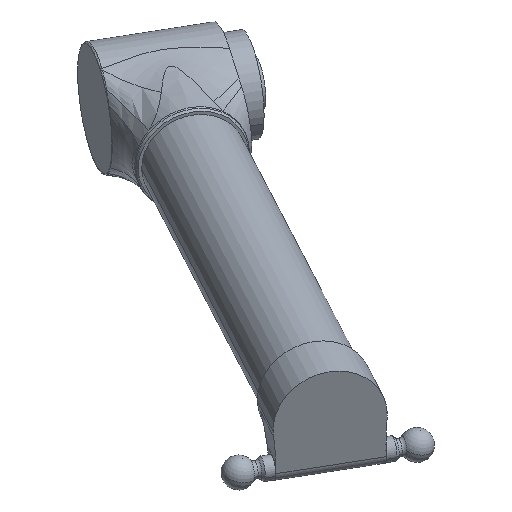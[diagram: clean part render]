
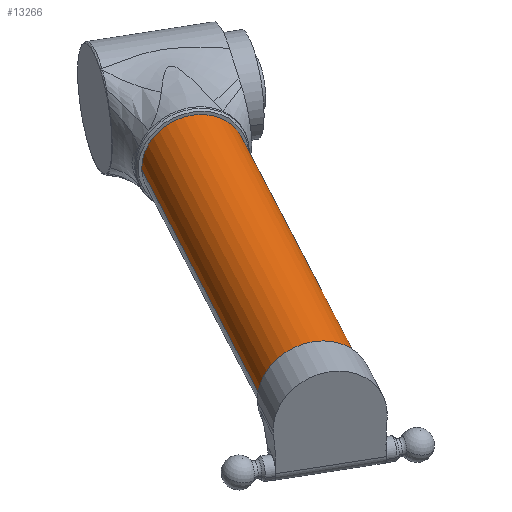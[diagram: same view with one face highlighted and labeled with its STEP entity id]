
A CAD part, isometric view. The second image highlights one B-rep face of the part: STEP entity #13266.
In plain terms, the highlighted cylindrical face has radius 29 mm (diameter 58 mm), a partial arc.
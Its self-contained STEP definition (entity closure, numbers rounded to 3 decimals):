
#246 = CARTESIAN_POINT ( 'NONE',  ( -295.856, -454.438, -248.626 ) ) ;
#904 = EDGE_CURVE ( 'NONE', #1858, #7862, #2975, .T. ) ;
#1658 = CARTESIAN_POINT ( 'NONE',  ( -260.999, -452.064, -250.131 ) ) ;
#1858 = VERTEX_POINT ( 'NONE', #10747 ) ;
#2197 = AXIS2_PLACEMENT_3D ( 'NONE', #5865, #10532, #12971 ) ;
#2274 = VECTOR ( 'NONE', #3223, 1000. ) ;
#2550 = ORIENTED_EDGE ( 'NONE', *, *, #13676, .T. ) ;
#2552 = LINE ( 'NONE', #246, #6040 ) ;
#2952 = DIRECTION ( 'NONE',  ( 0.499, 0.863, -0.077 ) ) ;
#2975 = CIRCLE ( 'NONE', #2197, 29. ) ;
#3223 = DIRECTION ( 'NONE',  ( 0.499, 0.863, -0.077 ) ) ;
#4131 = EDGE_CURVE ( 'NONE', #4605, #7862, #2552, .T. ) ;
#4146 = DIRECTION ( 'NONE',  ( 0.866, -0.5, 0. ) ) ;
#4223 = DIRECTION ( 'NONE',  ( 0.499, 0.863, -0.077 ) ) ;
#4372 = DIRECTION ( 'NONE',  ( 0.866, -0.5, 0. ) ) ;
#4500 = ORIENTED_EDGE ( 'NONE', *, *, #904, .T. ) ;
#4605 = VERTEX_POINT ( 'NONE', #9557 ) ;
#4992 = DIRECTION ( 'NONE',  ( 0.499, 0.863, -0.077 ) ) ;
#5068 = EDGE_LOOP ( 'NONE', ( #15373, #9408, #2550, #4500 ) ) ;
#5385 = CYLINDRICAL_SURFACE ( 'NONE', #10362, 29. ) ;
#5865 = CARTESIAN_POINT ( 'NONE',  ( -134.398, -232.783, -269.687 ) ) ;
#6040 = VECTOR ( 'NONE', #4992, 1000. ) ;
#7862 = VERTEX_POINT ( 'NONE', #14646 ) ;
#8907 = CIRCLE ( 'NONE', #10384, 29. ) ;
#9408 = ORIENTED_EDGE ( 'NONE', *, *, #13068, .T. ) ;
#9557 = CARTESIAN_POINT ( 'NONE',  ( -286.114, -437.564, -250.131 ) ) ;
#10362 = AXIS2_PLACEMENT_3D ( 'NONE', #12569, #2952, #4372 ) ;
#10384 = AXIS2_PLACEMENT_3D ( 'NONE', #1658, #4223, #4146 ) ;
#10532 = DIRECTION ( 'NONE',  ( -0.499, -0.863, 0.077 ) ) ;
#10747 = CARTESIAN_POINT ( 'NONE',  ( -109.283, -247.283, -269.687 ) ) ;
#11476 = VERTEX_POINT ( 'NONE', #13503 ) ;
#12569 = CARTESIAN_POINT ( 'NONE',  ( -270.742, -468.938, -248.626 ) ) ;
#12655 = FACE_OUTER_BOUND ( 'NONE', #5068, .T. ) ;
#12771 = LINE ( 'NONE', #14031, #2274 ) ;
#12971 = DIRECTION ( 'NONE',  ( 0.866, -0.5, 0. ) ) ;
#13068 = EDGE_CURVE ( 'NONE', #4605, #11476, #8907, .T. ) ;
#13266 = ADVANCED_FACE ( 'NONE', ( #12655 ), #5385, .T. ) ;
#13503 = CARTESIAN_POINT ( 'NONE',  ( -235.884, -466.564, -250.131 ) ) ;
#13676 = EDGE_CURVE ( 'NONE', #11476, #1858, #12771, .T. ) ;
#14031 = CARTESIAN_POINT ( 'NONE',  ( -245.627, -483.438, -248.626 ) ) ;
#14646 = CARTESIAN_POINT ( 'NONE',  ( -159.512, -218.283, -269.687 ) ) ;
#15373 = ORIENTED_EDGE ( 'NONE', *, *, #4131, .F. ) ;
